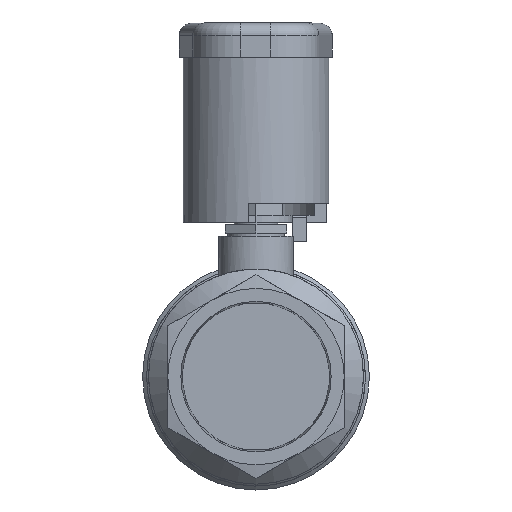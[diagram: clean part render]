
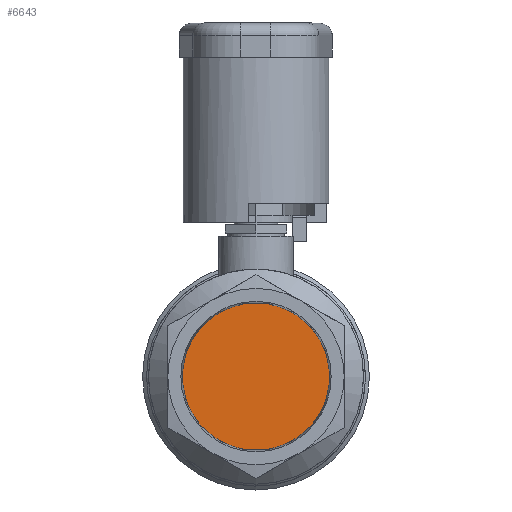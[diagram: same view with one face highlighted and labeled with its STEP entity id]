
A CAD part, left-side view. The second image highlights one B-rep face of the part: STEP entity #6643.
In plain terms, the highlighted planar face has unit normal (-1, 0, 0).
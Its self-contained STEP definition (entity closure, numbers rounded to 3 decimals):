
#6574 = CONICAL_SURFACE('',#6575,1.137,0.031);
#6575 = AXIS2_PLACEMENT_3D('',#6576,#6577,#6578);
#6576 = CARTESIAN_POINT('',(73.141,0.,0.));
#6577 = DIRECTION('',(1.,0.,0.));
#6578 = DIRECTION('',(0.,-1.,0.));
#6591 = VERTEX_POINT('',#6592);
#6592 = CARTESIAN_POINT('',(0.697,1.126,0.));
#6612 = EDGE_CURVE('',#6591,#6591,#6613,.T.);
#6613 = SURFACE_CURVE('',#6614,(#6619,#6626),.PCURVE_S1.);
#6614 = CIRCLE('',#6615,1.126);
#6615 = AXIS2_PLACEMENT_3D('',#6616,#6617,#6618);
#6616 = CARTESIAN_POINT('',(0.697,0.,0.));
#6617 = DIRECTION('',(1.,0.,0.));
#6618 = DIRECTION('',(-0.,1.,0.));
#6619 = PCURVE('',#6574,#6620);
#6620 = DEFINITIONAL_REPRESENTATION('',(#6621),#6625);
#6621 = LINE('',#6622,#6623);
#6622 = CARTESIAN_POINT('',(0.,-72.444));
#6623 = VECTOR('',#6624,1.);
#6624 = DIRECTION('',(1.,0.));
#6625 = ( GEOMETRIC_REPRESENTATION_CONTEXT(2) 
PARAMETRIC_REPRESENTATION_CONTEXT() REPRESENTATION_CONTEXT('2D SPACE',''
  ) );
#6626 = PCURVE('',#6627,#6632);
#6627 = PLANE('',#6628);
#6628 = AXIS2_PLACEMENT_3D('',#6629,#6630,#6631);
#6629 = CARTESIAN_POINT('',(0.697,0.563,0.));
#6630 = DIRECTION('',(-1.,-0.,-0.));
#6631 = DIRECTION('',(-0.,1.,-0.));
#6632 = DEFINITIONAL_REPRESENTATION('',(#6633),#6641);
#6633 = ( BOUNDED_CURVE() B_SPLINE_CURVE(2,(#6634,#6635,#6636,#6637,
#6638,#6639,#6640),.UNSPECIFIED.,.T.,.F.) B_SPLINE_CURVE_WITH_KNOTS((1,2
    ,2,2,2,1),(-2.094,0.,2.094,4.189,
6.283,8.378),.UNSPECIFIED.) CURVE() 
GEOMETRIC_REPRESENTATION_ITEM() RATIONAL_B_SPLINE_CURVE((1.,0.5,1.,0.5,
1.,0.5,1.)) REPRESENTATION_ITEM('') );
#6634 = CARTESIAN_POINT('',(0.563,0.));
#6635 = CARTESIAN_POINT('',(0.563,-1.951));
#6636 = CARTESIAN_POINT('',(-1.126,-0.975));
#6637 = CARTESIAN_POINT('',(-2.816,0.));
#6638 = CARTESIAN_POINT('',(-1.126,0.975));
#6639 = CARTESIAN_POINT('',(0.563,1.951));
#6640 = CARTESIAN_POINT('',(0.563,0.));
#6641 = ( GEOMETRIC_REPRESENTATION_CONTEXT(2) 
PARAMETRIC_REPRESENTATION_CONTEXT() REPRESENTATION_CONTEXT('2D SPACE',''
  ) );
#6643 = ADVANCED_FACE('',(#6644),#6627,.T.);
#6644 = FACE_BOUND('',#6645,.T.);
#6645 = EDGE_LOOP('',(#6646));
#6646 = ORIENTED_EDGE('',*,*,#6612,.F.);
